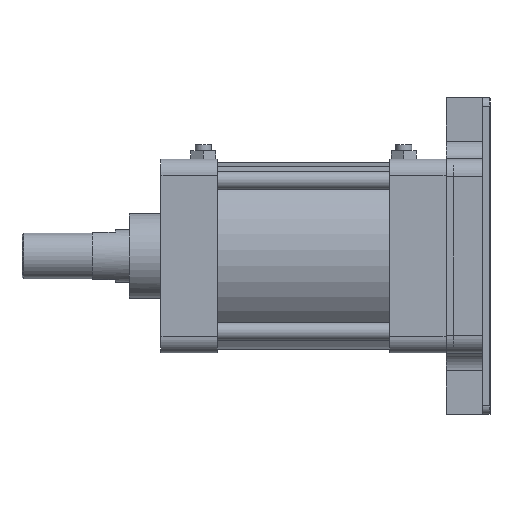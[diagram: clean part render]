
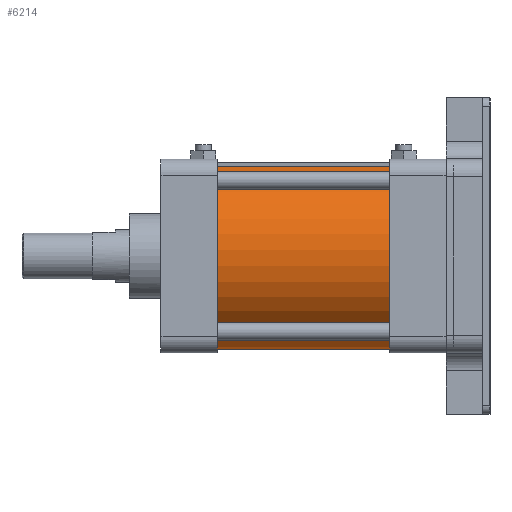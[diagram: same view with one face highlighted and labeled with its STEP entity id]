
A CAD part, front view. The second image highlights one B-rep face of the part: STEP entity #6214.
In plain terms, the highlighted cylindrical face has radius 53 mm (diameter 106 mm), a partial arc.
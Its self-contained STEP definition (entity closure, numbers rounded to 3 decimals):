
#200 = VERTEX_POINT ( 'NONE', #4223 ) ;
#450 = DIRECTION ( 'NONE',  ( 1., 0., 0. ) ) ;
#609 = DIRECTION ( 'NONE',  ( 1., 0., 0. ) ) ;
#610 = CARTESIAN_POINT ( 'NONE',  ( 62.388, 0., 53. ) ) ;
#763 = VECTOR ( 'NONE', #4525, 1000. ) ;
#1322 = VERTEX_POINT ( 'NONE', #5582 ) ;
#1482 = DIRECTION ( 'NONE',  ( 1., 0., 0. ) ) ;
#1636 = ORIENTED_EDGE ( 'NONE', *, *, #9706, .T. ) ;
#2117 = CIRCLE ( 'NONE', #7063, 53. ) ;
#2360 = VERTEX_POINT ( 'NONE', #6753 ) ;
#2558 = CYLINDRICAL_SURFACE ( 'NONE', #7820, 53. ) ;
#2648 = EDGE_CURVE ( 'NONE', #1322, #2360, #6168, .T. ) ;
#2886 = ORIENTED_EDGE ( 'NONE', *, *, #2648, .F. ) ;
#3032 = DIRECTION ( 'NONE',  ( 0., 0., -1. ) ) ;
#3116 = CARTESIAN_POINT ( 'NONE',  ( 62.388, 0., -53. ) ) ;
#3975 = VERTEX_POINT ( 'NONE', #5629 ) ;
#4223 = CARTESIAN_POINT ( 'NONE',  ( -49., 0., 53. ) ) ;
#4314 = AXIS2_PLACEMENT_3D ( 'NONE', #8030, #609, #8510 ) ;
#4525 = DIRECTION ( 'NONE',  ( 1., 0., 0. ) ) ;
#4696 = LINE ( 'NONE', #610, #8450 ) ;
#4943 = ORIENTED_EDGE ( 'NONE', *, *, #9029, .F. ) ;
#5430 = LINE ( 'NONE', #3116, #763 ) ;
#5582 = CARTESIAN_POINT ( 'NONE',  ( 49., 0., 53. ) ) ;
#5629 = CARTESIAN_POINT ( 'NONE',  ( -49., 0., -53. ) ) ;
#6168 = CIRCLE ( 'NONE', #4314, 53. ) ;
#6214 = ADVANCED_FACE ( 'NONE', ( #9674 ), #2558, .T. ) ;
#6437 = DIRECTION ( 'NONE',  ( 0., 0., -1. ) ) ;
#6630 = CARTESIAN_POINT ( 'NONE',  ( 62.388, 0., 0. ) ) ;
#6753 = CARTESIAN_POINT ( 'NONE',  ( 49., 0., -53. ) ) ;
#7063 = AXIS2_PLACEMENT_3D ( 'NONE', #8988, #9298, #6437 ) ;
#7820 = AXIS2_PLACEMENT_3D ( 'NONE', #6630, #1482, #3032 ) ;
#8030 = CARTESIAN_POINT ( 'NONE',  ( 49., 0., 0. ) ) ;
#8450 = VECTOR ( 'NONE', #450, 1000. ) ;
#8484 = EDGE_CURVE ( 'NONE', #3975, #2360, #5430, .T. ) ;
#8510 = DIRECTION ( 'NONE',  ( 0., 0., -1. ) ) ;
#8851 = EDGE_LOOP ( 'NONE', ( #4943, #1636, #9743, #2886 ) ) ;
#8988 = CARTESIAN_POINT ( 'NONE',  ( -49., 0., 0. ) ) ;
#9029 = EDGE_CURVE ( 'NONE', #200, #1322, #4696, .T. ) ;
#9298 = DIRECTION ( 'NONE',  ( 1., 0., 0. ) ) ;
#9674 = FACE_OUTER_BOUND ( 'NONE', #8851, .T. ) ;
#9706 = EDGE_CURVE ( 'NONE', #200, #3975, #2117, .T. ) ;
#9743 = ORIENTED_EDGE ( 'NONE', *, *, #8484, .T. ) ;
